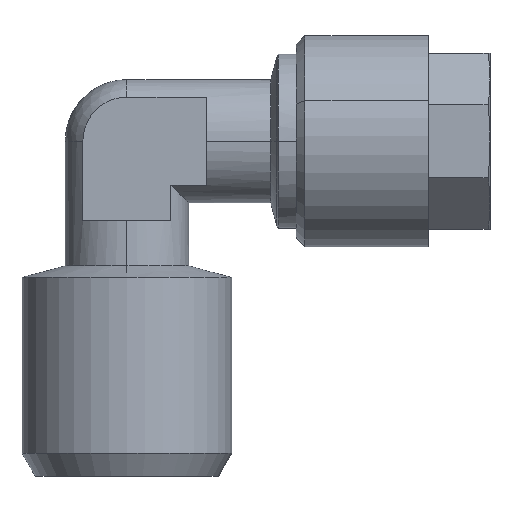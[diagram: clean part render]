
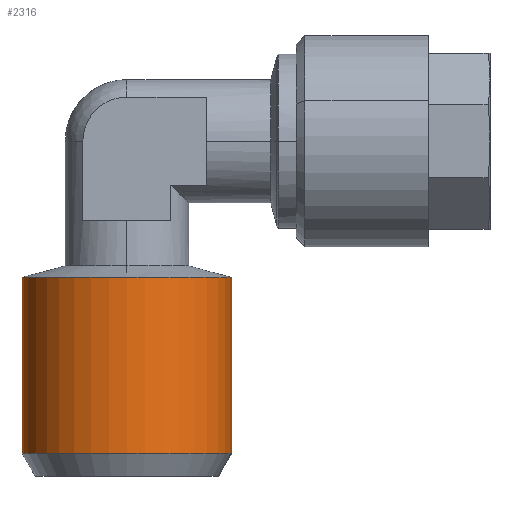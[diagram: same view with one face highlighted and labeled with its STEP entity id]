
A CAD part, top view. The second image highlights one B-rep face of the part: STEP entity #2316.
In plain terms, the highlighted cylindrical face has radius 5.95 mm (diameter 11.9 mm), a partial arc.
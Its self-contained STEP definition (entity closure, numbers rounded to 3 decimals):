
#320 = AXIS2_PLACEMENT_3D ( 'NONE', #2490, #2491, #2492 ) ;
#321 = AXIS2_PLACEMENT_3D ( 'NONE', #2495, #2496, #2497 ) ;
#322 = AXIS2_PLACEMENT_3D ( 'NONE', #2499, #2500, #2501 ) ;
#404 = AXIS2_PLACEMENT_3D ( 'NONE', #1414, #1415, #1423 ) ;
#565 = LINE ( 'NONE', #2489, #574 ) ;
#571 = CIRCLE ( 'NONE', #320, 5.95 ) ;
#573 = CIRCLE ( 'NONE', #321, 5.95 ) ;
#574 = VECTOR ( 'NONE', #2485, 1000. ) ;
#575 = CIRCLE ( 'NONE', #322, 5.95 ) ;
#576 = LINE ( 'NONE', #2493, #578 ) ;
#578 = VECTOR ( 'NONE', #2494, 1000. ) ;
#940 = CARTESIAN_POINT ( 'NONE',  ( -5.95, 3.299, 0. ) ) ;
#1414 = CARTESIAN_POINT ( 'NONE',  ( 0., 2., 0. ) ) ;
#1415 = DIRECTION ( 'NONE',  ( 0., 1., 0. ) ) ;
#1423 = DIRECTION ( 'NONE',  ( -1., 0., 0. ) ) ;
#1570 = EDGE_LOOP ( 'NONE', ( #1593, #1594, #1595, #1596, #1597 ) ) ;
#1593 = ORIENTED_EDGE ( 'NONE', *, *, #3137, .T. ) ;
#1594 = ORIENTED_EDGE ( 'NONE', *, *, #3138, .T. ) ;
#1595 = ORIENTED_EDGE ( 'NONE', *, *, #3139, .T. ) ;
#1596 = ORIENTED_EDGE ( 'NONE', *, *, #3140, .T. ) ;
#1597 = ORIENTED_EDGE ( 'NONE', *, *, #3141, .F. ) ;
#2284 = FACE_OUTER_BOUND ( 'NONE', #1570, .T. ) ;
#2292 = CYLINDRICAL_SURFACE ( 'NONE', #404, 5.95 ) ;
#2316 = ADVANCED_FACE ( 'NONE', ( #2284 ), #2292, .T. ) ;
#2389 = CARTESIAN_POINT ( 'NONE',  ( 5.95, 3.299, 0. ) ) ;
#2392 = CARTESIAN_POINT ( 'NONE',  ( 5.95, 13.281, 0. ) ) ;
#2393 = CARTESIAN_POINT ( 'NONE',  ( 0., 13.281, 5.95 ) ) ;
#2394 = CARTESIAN_POINT ( 'NONE',  ( -5.95, 13.281, 0. ) ) ;
#2485 = DIRECTION ( 'NONE',  ( 0., 1., 0. ) ) ;
#2489 = CARTESIAN_POINT ( 'NONE',  ( 5.95, 2., 0. ) ) ;
#2490 = CARTESIAN_POINT ( 'NONE',  ( 0., 3.299, 0. ) ) ;
#2491 = DIRECTION ( 'NONE',  ( 0., 1., 0. ) ) ;
#2492 = DIRECTION ( 'NONE',  ( -1., 0., 0. ) ) ;
#2493 = CARTESIAN_POINT ( 'NONE',  ( -5.95, 2., 0. ) ) ;
#2494 = DIRECTION ( 'NONE',  ( 0., 1., 0. ) ) ;
#2495 = CARTESIAN_POINT ( 'NONE',  ( 0., 13.281, 0. ) ) ;
#2496 = DIRECTION ( 'NONE',  ( 0., -1., 0. ) ) ;
#2497 = DIRECTION ( 'NONE',  ( 0., 0., -1. ) ) ;
#2499 = CARTESIAN_POINT ( 'NONE',  ( 0., 13.281, 0. ) ) ;
#2500 = DIRECTION ( 'NONE',  ( 0., -1., 0. ) ) ;
#2501 = DIRECTION ( 'NONE',  ( 0., 0., -1. ) ) ;
#2995 = VERTEX_POINT ( 'NONE', #940 ) ;
#3004 = VERTEX_POINT ( 'NONE', #2389 ) ;
#3007 = VERTEX_POINT ( 'NONE', #2392 ) ;
#3008 = VERTEX_POINT ( 'NONE', #2393 ) ;
#3009 = VERTEX_POINT ( 'NONE', #2394 ) ;
#3137 = EDGE_CURVE ( 'NONE', #2995, #3004, #571, .T. ) ;
#3138 = EDGE_CURVE ( 'NONE', #3004, #3007, #565, .T. ) ;
#3139 = EDGE_CURVE ( 'NONE', #3007, #3008, #573, .T. ) ;
#3140 = EDGE_CURVE ( 'NONE', #3008, #3009, #575, .T. ) ;
#3141 = EDGE_CURVE ( 'NONE', #2995, #3009, #576, .T. ) ;
